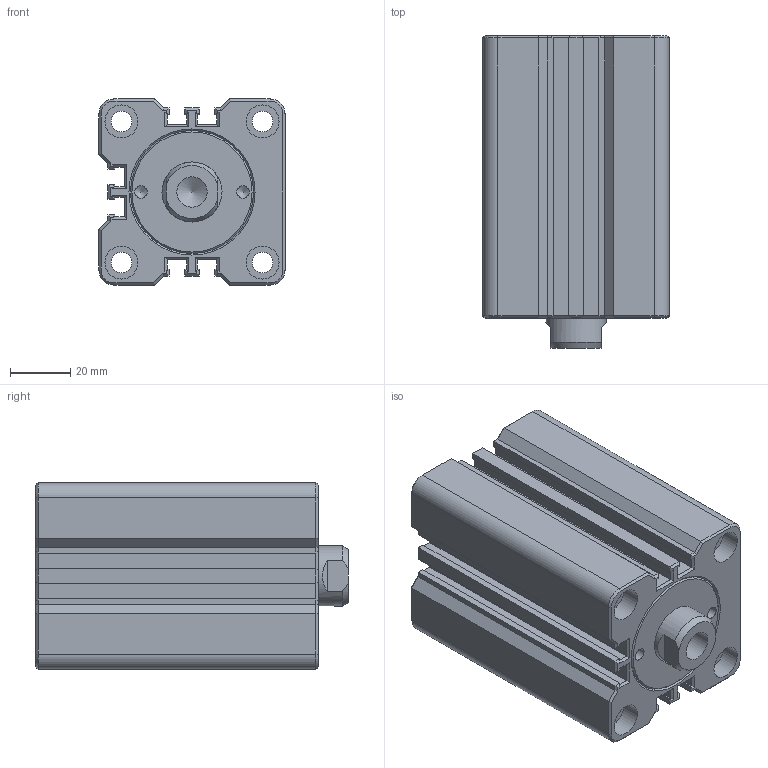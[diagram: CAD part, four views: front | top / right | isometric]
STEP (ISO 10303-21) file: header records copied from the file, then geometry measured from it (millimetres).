
FILE_DESCRIPTION(/* description */ ('Unknown'),/* implementation_level */ '2;1');
FILE_NAME(/* name */ 'HTM70-SD32X40N',/* time_stamp */ '2022-08-31T02:45:16+08:00',/* author */ ('Unknown'),/* organization */ ('Unknown'),/* preprocessor_version */ 'ST-DEVELOPER v16.7',/* originating_system */ 'DEX',/* authorisation */ $);
FILE_SCHEMA (('AUTOMOTIVE_DESIGN {1 0 10303 214 3 1 1}'));
Length unit declared in the file: millimetre
Products named in the file (1): HTM70-SD32X40N
Bounding box: 62 x 104 x 62 mm (x, y, z)
Volume: 303145.1 mm3; surface area: 48199.7 mm2
Topology: 1 solids, 1 shells, 271 faces, 624 edges, 369 vertices
Faces by surface type: plane 212, cone 24, cylinder 23, bspline 12
Full cylindrical faces by diameter (mm): 4.1 x2, 6 x1, 6.8 x4, 10.106 x1, 11 x8, 12.301 x2, 20 x1
Entity records: 9223 total; most frequent: CARTESIAN_POINT 1451, ORIENTED_EDGE 1170, DIRECTION 1148, EDGE_CURVE 585, LINE 474, VECTOR 474, VERTEX_POINT 360, AXIS2_PLACEMENT_3D 337
